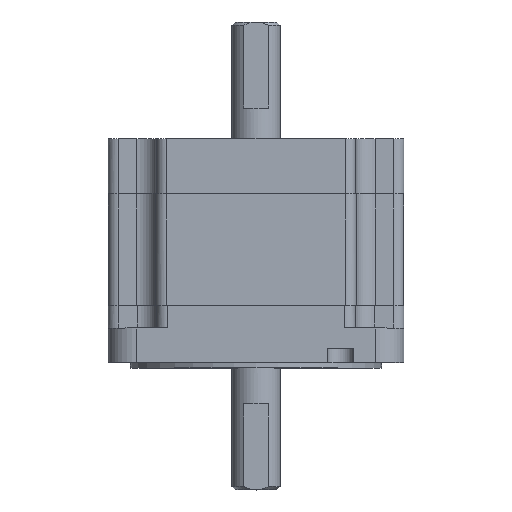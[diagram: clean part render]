
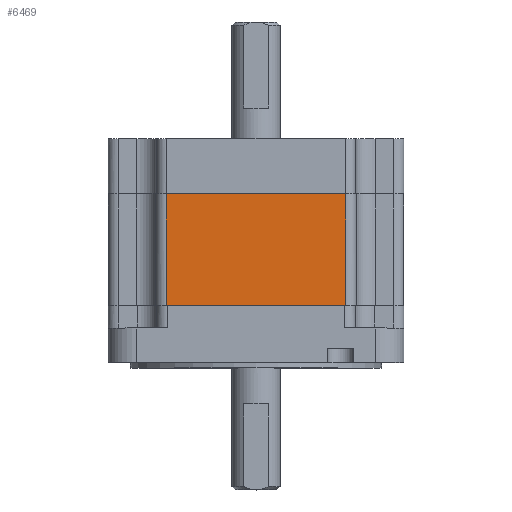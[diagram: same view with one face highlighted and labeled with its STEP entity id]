
A CAD part, top view. The second image highlights one B-rep face of the part: STEP entity #6469.
In plain terms, the highlighted planar face has unit normal (0, 0, 1).
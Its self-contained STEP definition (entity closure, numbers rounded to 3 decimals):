
#2939=CARTESIAN_POINT('',(-26.1,-17.425,42.93));
#2940=VERTEX_POINT('',#2939);
#2948=CARTESIAN_POINT('',(26.1,-17.425,42.93));
#2949=VERTEX_POINT('',#2948);
#2950=CARTESIAN_POINT('',(-26.1,-17.425,42.93));
#2951=DIRECTION('',(1.,0.,0.));
#2952=VECTOR('',#2951,52.2);
#2953=LINE('',#2950,#2952);
#2954=EDGE_CURVE('',#2940,#2949,#2953,.T.);
#6418=CARTESIAN_POINT('',(26.1,-49.925,42.93));
#6419=VERTEX_POINT('',#6418);
#6420=CARTESIAN_POINT('',(26.1,-17.425,42.93));
#6421=DIRECTION('',(0.,-1.,0.));
#6422=VECTOR('',#6421,32.5);
#6423=LINE('',#6420,#6422);
#6424=EDGE_CURVE('',#2949,#6419,#6423,.T.);
#6446=CARTESIAN_POINT('',(0.,-30.175,42.93));
#6447=DIRECTION('',(-1.,0.,0.));
#6448=DIRECTION('',(0.,0.,1.));
#6449=AXIS2_PLACEMENT_3D('',#6446,#6448,#6447);
#6450=PLANE('',#6449);
#6451=ORIENTED_EDGE('',*,*,#2954,.F.);
#6452=CARTESIAN_POINT('',(-26.1,-49.925,42.93));
#6453=VERTEX_POINT('',#6452);
#6454=CARTESIAN_POINT('',(-26.1,-17.425,42.93));
#6455=DIRECTION('',(0.,-1.,0.));
#6456=VECTOR('',#6455,32.5);
#6457=LINE('',#6454,#6456);
#6458=EDGE_CURVE('',#2940,#6453,#6457,.T.);
#6459=ORIENTED_EDGE('E199',*,*,#6458,.T.);
#6460=CARTESIAN_POINT('',(-26.1,-49.925,42.93));
#6461=DIRECTION('',(1.,0.,0.));
#6462=VECTOR('',#6461,52.2);
#6463=LINE('',#6460,#6462);
#6464=EDGE_CURVE('',#6453,#6419,#6463,.T.);
#6465=ORIENTED_EDGE('E200',*,*,#6464,.T.);
#6466=ORIENTED_EDGE('E200',*,*,#6424,.F.);
#6467=EDGE_LOOP('',(#6451,#6459,#6465,#6466));
#6468=FACE_OUTER_BOUND('',#6467,.T.);
#6469=ADVANCED_FACE('F385',(#6468),#6450,.T.);
